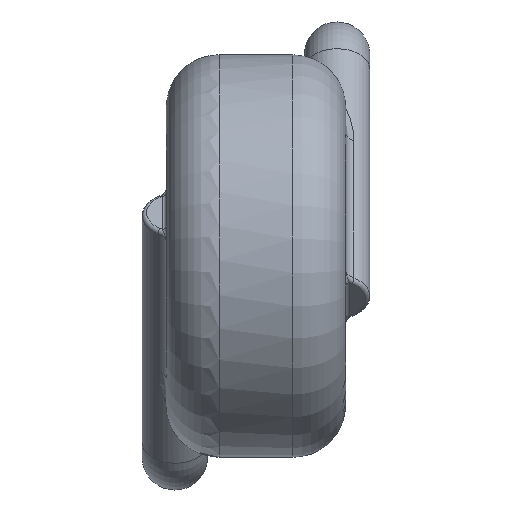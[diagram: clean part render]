
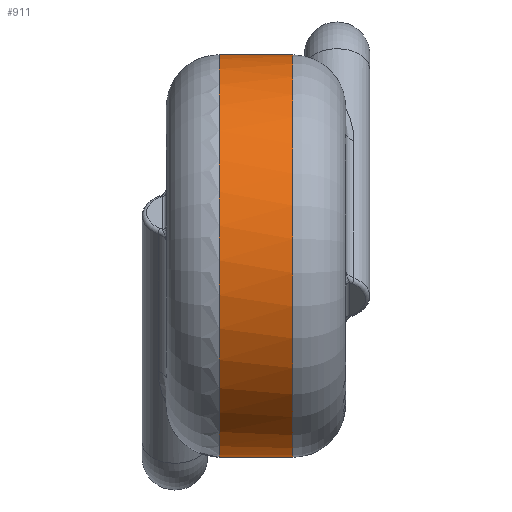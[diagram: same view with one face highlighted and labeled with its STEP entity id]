
A CAD part, left-side view. The second image highlights one B-rep face of the part: STEP entity #911.
In plain terms, the highlighted cylindrical face has radius 9.55 mm (diameter 19.1 mm), a full revolution.
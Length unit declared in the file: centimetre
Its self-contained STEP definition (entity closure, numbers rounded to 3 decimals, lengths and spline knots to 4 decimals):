
#742=CARTESIAN_POINT('',(0.6202,0.52,-0.7262));
#743=VERTEX_POINT('',#742);
#744=CARTESIAN_POINT('',(0.7589,0.52,-0.5798));
#745=VERTEX_POINT('',#744);
#746=CARTESIAN_POINT('',(0.6202,0.52,-0.7262));
#747=CARTESIAN_POINT('',(0.6208,0.5198,-0.7257));
#748=CARTESIAN_POINT('',(0.6213,0.5196,-0.7253));
#749=CARTESIAN_POINT('',(0.6218,0.5194,-0.7248));
#750=CARTESIAN_POINT('',(0.6268,0.5177,-0.7205));
#751=CARTESIAN_POINT('',(0.6318,0.5161,-0.7162));
#752=CARTESIAN_POINT('',(0.6367,0.5147,-0.7118));
#753=CARTESIAN_POINT('',(0.6459,0.5121,-0.7036));
#754=CARTESIAN_POINT('',(0.655,0.5102,-0.6952));
#755=CARTESIAN_POINT('',(0.6639,0.5088,-0.6865));
#756=CARTESIAN_POINT('',(0.6722,0.5076,-0.6784));
#757=CARTESIAN_POINT('',(0.6804,0.5068,-0.6702));
#758=CARTESIAN_POINT('',(0.6885,0.5066,-0.6618));
#759=CARTESIAN_POINT('',(0.6923,0.5065,-0.6579));
#760=CARTESIAN_POINT('',(0.696,0.5066,-0.6539));
#761=CARTESIAN_POINT('',(0.6997,0.5067,-0.6499));
#762=CARTESIAN_POINT('',(0.703,0.5068,-0.6464));
#763=CARTESIAN_POINT('',(0.7062,0.507,-0.6429));
#764=CARTESIAN_POINT('',(0.7094,0.5073,-0.6393));
#765=CARTESIAN_POINT('',(0.7181,0.5082,-0.6298));
#766=CARTESIAN_POINT('',(0.7265,0.5096,-0.6201));
#767=CARTESIAN_POINT('',(0.7346,0.5117,-0.6103));
#768=CARTESIAN_POINT('',(0.7422,0.5136,-0.6011));
#769=CARTESIAN_POINT('',(0.7495,0.516,-0.5919));
#770=CARTESIAN_POINT('',(0.7566,0.519,-0.5827));
#771=CARTESIAN_POINT('',(0.7569,0.5192,-0.5823));
#772=CARTESIAN_POINT('',(0.7573,0.5193,-0.5819));
#773=CARTESIAN_POINT('',(0.7576,0.5194,-0.5815));
#774=CARTESIAN_POINT('',(0.758,0.5196,-0.5809));
#775=CARTESIAN_POINT('',(0.7585,0.5198,-0.5803));
#776=CARTESIAN_POINT('',(0.7589,0.52,-0.5797));
#777=B_SPLINE_CURVE_WITH_KNOTS('',3,(#746,#747,#748,#749,#750,#751,#752,#753,#754,#755,#756,#757,#758,#759,#760,#761,#762,#763,#764,#765,#766,#767,#768,#769,#770,#771,#772,#773,#774,#775,#776),.UNSPECIFIED.,.F.,.U.,(4,3,3,3,3,3,3,3,3,3,4),(-0.0022,0.,0.0203,0.058,0.0928,0.1092,0.1236,0.1622,0.1983,0.1999,0.2021),.UNSPECIFIED.);
#778=EDGE_CURVE('',#743,#745,#777,.T.);
#852=CARTESIAN_POINT('',(0.0,0.3445,0.0));
#853=DIRECTION('',(0.0,1.0,0.0));
#854=DIRECTION('',(-1.0,0.0,0.0));
#855=AXIS2_PLACEMENT_3D('',#852,#853,#854);
#856=CYLINDRICAL_SURFACE('',#855,0.955);
#857=ORIENTED_EDGE('',*,*,#778,.T.);
#858=CARTESIAN_POINT('',(0.0,0.52,0.0));
#859=DIRECTION('',(0.0,1.0,0.0));
#860=DIRECTION('',(-1.0,0.0,0.0));
#861=AXIS2_PLACEMENT_3D('',#858,#859,#860);
#862=CIRCLE('',#861,0.955);
#863=EDGE_CURVE('',#743,#745,#862,.T.);
#864=ORIENTED_EDGE('',*,*,#863,.F.);
#865=EDGE_LOOP('',(#857,#864));
#866=FACE_OUTER_BOUND('',#865,.T.);
#867=CARTESIAN_POINT('',(0.6202,0.169,0.7262));
#868=VERTEX_POINT('',#867);
#869=CARTESIAN_POINT('',(0.7589,0.169,0.5798));
#870=VERTEX_POINT('',#869);
#871=CARTESIAN_POINT('',(0.6201,0.1691,0.726));
#872=CARTESIAN_POINT('',(0.6207,0.1693,0.7256));
#873=CARTESIAN_POINT('',(0.6212,0.1695,0.7251));
#874=CARTESIAN_POINT('',(0.6217,0.1697,0.7247));
#875=CARTESIAN_POINT('',(0.6267,0.1715,0.7204));
#876=CARTESIAN_POINT('',(0.6317,0.1731,0.7161));
#877=CARTESIAN_POINT('',(0.6366,0.1745,0.7117));
#878=CARTESIAN_POINT('',(0.6458,0.177,0.7035));
#879=CARTESIAN_POINT('',(0.6549,0.1789,0.6951));
#880=CARTESIAN_POINT('',(0.6639,0.1802,0.6865));
#881=CARTESIAN_POINT('',(0.6723,0.1813,0.6785));
#882=CARTESIAN_POINT('',(0.6805,0.182,0.6703));
#883=CARTESIAN_POINT('',(0.6886,0.1822,0.662));
#884=CARTESIAN_POINT('',(0.6957,0.1823,0.6546));
#885=CARTESIAN_POINT('',(0.7027,0.1821,0.6471));
#886=CARTESIAN_POINT('',(0.7096,0.1814,0.6395));
#887=CARTESIAN_POINT('',(0.7182,0.1807,0.6299));
#888=CARTESIAN_POINT('',(0.7265,0.1793,0.6202));
#889=CARTESIAN_POINT('',(0.7346,0.1773,0.6103));
#890=CARTESIAN_POINT('',(0.7422,0.1754,0.6012));
#891=CARTESIAN_POINT('',(0.7495,0.173,0.5919));
#892=CARTESIAN_POINT('',(0.7566,0.1701,0.5827));
#893=CARTESIAN_POINT('',(0.7569,0.1699,0.5823));
#894=CARTESIAN_POINT('',(0.7572,0.1698,0.5819));
#895=CARTESIAN_POINT('',(0.7575,0.1697,0.5815));
#896=CARTESIAN_POINT('',(0.758,0.1695,0.5809));
#897=CARTESIAN_POINT('',(0.7584,0.1693,0.5803));
#898=CARTESIAN_POINT('',(0.7588,0.1691,0.5797));
#899=B_SPLINE_CURVE_WITH_KNOTS('',3,(#871,#872,#873,#874,#875,#876,#877,#878,#879,#880,#881,#882,#883,#884,#885,#886,#887,#888,#889,#890,#891,#892,#893,#894,#895,#896,#897,#898),.UNSPECIFIED.,.F.,.U.,(4,3,3,3,3,3,3,3,3,4),(-0.0022,0.,0.0203,0.058,0.0928,0.1236,0.1622,0.1983,0.1999,0.2021),.UNSPECIFIED.);
#900=EDGE_CURVE('',#868,#870,#899,.T.);
#901=ORIENTED_EDGE('',*,*,#900,.T.);
#902=CARTESIAN_POINT('',(0.0,0.169,0.0));
#903=DIRECTION('',(0.0,-1.0,0.0));
#904=DIRECTION('',(-1.0,0.0,0.0));
#905=AXIS2_PLACEMENT_3D('',#902,#903,#904);
#906=CIRCLE('',#905,0.955);
#907=EDGE_CURVE('',#868,#870,#906,.T.);
#908=ORIENTED_EDGE('',*,*,#907,.F.);
#909=EDGE_LOOP('',(#901,#908));
#910=FACE_BOUND('',#909,.T.);
#911=ADVANCED_FACE('',(#866,#910),#856,.T.);
